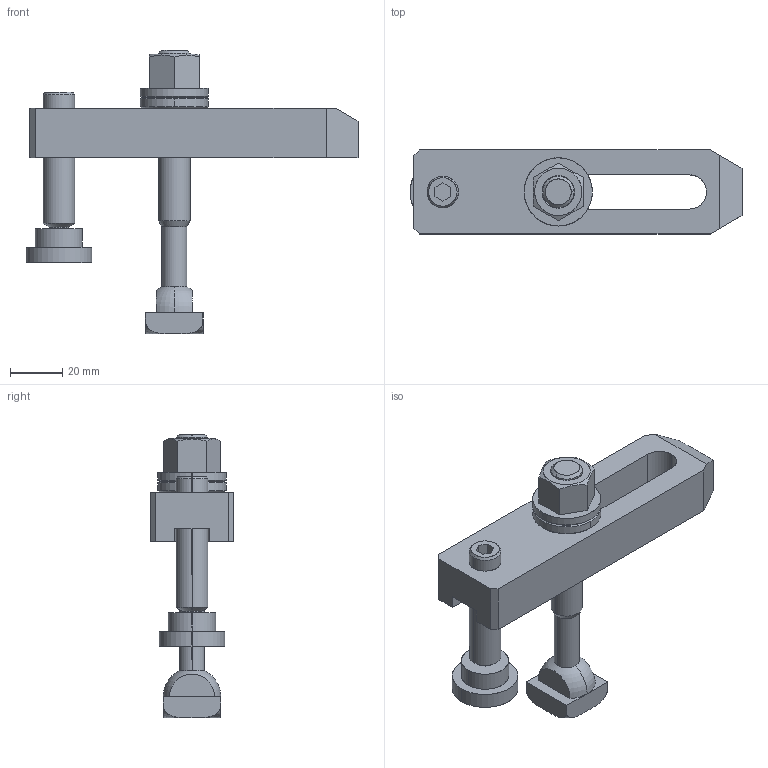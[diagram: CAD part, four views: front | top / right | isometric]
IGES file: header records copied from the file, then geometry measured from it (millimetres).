
Start section: SolidWorks IGES file using analytic representation for surfaces
Global section: file name: X:\11_SW2020-Inv2020\00_全2021-11新製品まで\b\BJ153-12125B1-T\bj153-12125b1-t.IGS; native system: SolidWorks 2020; preprocessor: SolidWorks 2020; author: ImaoCorp; date: 211025.101335; units: millimetre
Bounding box: 126.5 x 32 x 108 mm (x, y, z)
Surface area: 27940.8 mm2 (no closed solid volume)
Topology: 0 solids, 0 shells, 109 faces, 1426 edges, 1426 vertices
Faces by surface type: revolution 59, bspline 50
